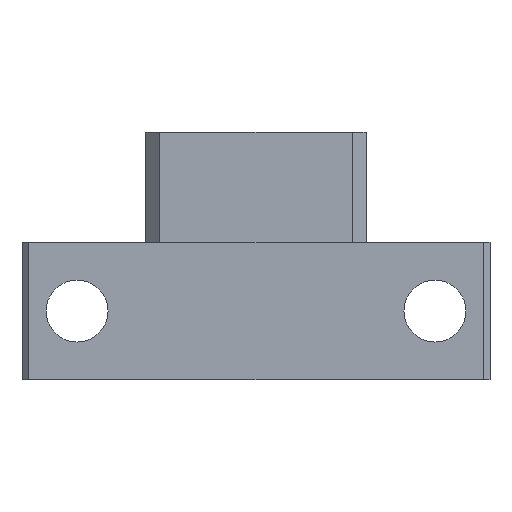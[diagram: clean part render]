
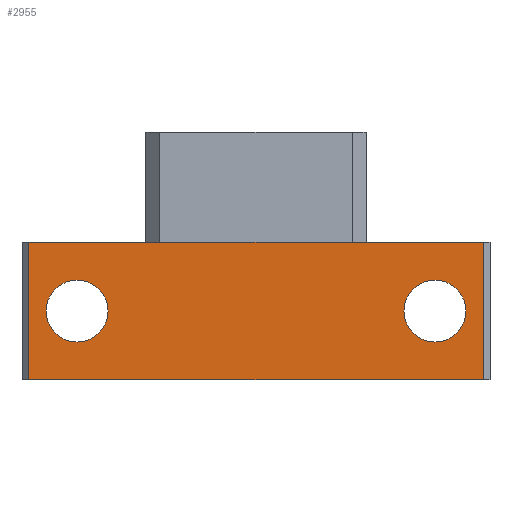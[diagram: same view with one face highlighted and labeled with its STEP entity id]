
A CAD part, front view. The second image highlights one B-rep face of the part: STEP entity #2955.
In plain terms, the highlighted planar face has unit normal (0, -1, 0).
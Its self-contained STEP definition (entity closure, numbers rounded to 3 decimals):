
#59 = VERTEX_POINT ( 'NONE', #159 ) ;
#107 = EDGE_LOOP ( 'NONE', ( #2882, #2864 ) ) ;
#159 = CARTESIAN_POINT ( 'NONE',  ( 13., -15.5, 2.75 ) ) ;
#194 = EDGE_CURVE ( 'NONE', #2325, #1596, #3060, .T. ) ;
#203 = EDGE_CURVE ( 'NONE', #351, #1956, #4145, .T. ) ;
#312 = EDGE_CURVE ( 'NONE', #1956, #351, #3546, .T. ) ;
#326 = CARTESIAN_POINT ( 'NONE',  ( 13., -15.5, 5. ) ) ;
#351 = VERTEX_POINT ( 'NONE', #4025 ) ;
#520 = EDGE_CURVE ( 'NONE', #3998, #59, #4492, .T. ) ;
#528 = DIRECTION ( 'NONE',  ( 0., 1., 0. ) ) ;
#577 = DIRECTION ( 'NONE',  ( 0., 1., 0. ) ) ;
#641 = EDGE_CURVE ( 'NONE', #2325, #4501, #4521, .T. ) ;
#676 = EDGE_LOOP ( 'NONE', ( #2108, #1475 ) ) ;
#719 = CARTESIAN_POINT ( 'NONE',  ( -13., -15.5, 2.75 ) ) ;
#727 = CARTESIAN_POINT ( 'NONE',  ( -16.5, -15.5, 10. ) ) ;
#729 = CARTESIAN_POINT ( 'NONE',  ( 16.5, -15.5, 10. ) ) ;
#1159 = PLANE ( 'NONE',  #2653 ) ;
#1250 = AXIS2_PLACEMENT_3D ( 'NONE', #4506, #2012, #3464 ) ;
#1254 = CARTESIAN_POINT ( 'NONE',  ( -16.5, -15.5, 10. ) ) ;
#1277 = DIRECTION ( 'NONE',  ( 0., 0., 1. ) ) ;
#1475 = ORIENTED_EDGE ( 'NONE', *, *, #3499, .T. ) ;
#1596 = VERTEX_POINT ( 'NONE', #1868 ) ;
#1698 = DIRECTION ( 'NONE',  ( 0., -1., 0. ) ) ;
#1865 = LINE ( 'NONE', #4409, #2305 ) ;
#1868 = CARTESIAN_POINT ( 'NONE',  ( 16.5, -15.5, 10. ) ) ;
#1893 = ORIENTED_EDGE ( 'NONE', *, *, #3656, .T. ) ;
#1941 = VECTOR ( 'NONE', #4481, 1000. ) ;
#1956 = VERTEX_POINT ( 'NONE', #719 ) ;
#2012 = DIRECTION ( 'NONE',  ( 0., -1., 0. ) ) ;
#2108 = ORIENTED_EDGE ( 'NONE', *, *, #520, .T. ) ;
#2288 = CARTESIAN_POINT ( 'NONE',  ( 13., -15.5, 5. ) ) ;
#2305 = VECTOR ( 'NONE', #2645, 1000. ) ;
#2325 = VERTEX_POINT ( 'NONE', #727 ) ;
#2509 = VECTOR ( 'NONE', #3689, 1000. ) ;
#2529 = DIRECTION ( 'NONE',  ( 0., 1., 0. ) ) ;
#2643 = VERTEX_POINT ( 'NONE', #3183 ) ;
#2645 = DIRECTION ( 'NONE',  ( 1., 0., 0. ) ) ;
#2653 = AXIS2_PLACEMENT_3D ( 'NONE', #3765, #528, #3810 ) ;
#2864 = ORIENTED_EDGE ( 'NONE', *, *, #312, .F. ) ;
#2882 = ORIENTED_EDGE ( 'NONE', *, *, #203, .F. ) ;
#2925 = AXIS2_PLACEMENT_3D ( 'NONE', #3514, #1698, #4645 ) ;
#2950 = ORIENTED_EDGE ( 'NONE', *, *, #4343, .F. ) ;
#2955 = ADVANCED_FACE ( 'NONE', ( #3786, #3355, #4139 ), #1159, .F. ) ;
#3060 = LINE ( 'NONE', #3751, #1941 ) ;
#3183 = CARTESIAN_POINT ( 'NONE',  ( 16.5, -15.5, 0. ) ) ;
#3226 = ORIENTED_EDGE ( 'NONE', *, *, #194, .F. ) ;
#3251 = DIRECTION ( 'NONE',  ( 0., 0., 1. ) ) ;
#3281 = LINE ( 'NONE', #729, #2509 ) ;
#3295 = AXIS2_PLACEMENT_3D ( 'NONE', #326, #2529, #3251 ) ;
#3355 = FACE_BOUND ( 'NONE', #676, .T. ) ;
#3425 = CARTESIAN_POINT ( 'NONE',  ( -16.5, -15.5, 0. ) ) ;
#3464 = DIRECTION ( 'NONE',  ( 0., 0., 1. ) ) ;
#3499 = EDGE_CURVE ( 'NONE', #59, #3998, #3527, .T. ) ;
#3509 = EDGE_LOOP ( 'NONE', ( #1893, #2950, #3226, #4244 ) ) ;
#3514 = CARTESIAN_POINT ( 'NONE',  ( -13., -15.5, 5. ) ) ;
#3527 = CIRCLE ( 'NONE', #3295, 2.25 ) ;
#3546 = CIRCLE ( 'NONE', #2925, 2.25 ) ;
#3656 = EDGE_CURVE ( 'NONE', #4501, #2643, #1865, .T. ) ;
#3689 = DIRECTION ( 'NONE',  ( 0., 0., -1. ) ) ;
#3751 = CARTESIAN_POINT ( 'NONE',  ( 0., -15.5, 10. ) ) ;
#3765 = CARTESIAN_POINT ( 'NONE',  ( 0., -15.5, 10. ) ) ;
#3786 = FACE_BOUND ( 'NONE', #107, .T. ) ;
#3810 = DIRECTION ( 'NONE',  ( 0., 0., 1. ) ) ;
#3998 = VERTEX_POINT ( 'NONE', #4452 ) ;
#4025 = CARTESIAN_POINT ( 'NONE',  ( -13., -15.5, 7.25 ) ) ;
#4044 = VECTOR ( 'NONE', #4162, 1000. ) ;
#4139 = FACE_OUTER_BOUND ( 'NONE', #3509, .T. ) ;
#4145 = CIRCLE ( 'NONE', #1250, 2.25 ) ;
#4162 = DIRECTION ( 'NONE',  ( 0., 0., -1. ) ) ;
#4244 = ORIENTED_EDGE ( 'NONE', *, *, #641, .T. ) ;
#4343 = EDGE_CURVE ( 'NONE', #1596, #2643, #3281, .T. ) ;
#4409 = CARTESIAN_POINT ( 'NONE',  ( 0., -15.5, 0. ) ) ;
#4452 = CARTESIAN_POINT ( 'NONE',  ( 13., -15.5, 7.25 ) ) ;
#4481 = DIRECTION ( 'NONE',  ( 1., 0., 0. ) ) ;
#4492 = CIRCLE ( 'NONE', #4647, 2.25 ) ;
#4501 = VERTEX_POINT ( 'NONE', #3425 ) ;
#4506 = CARTESIAN_POINT ( 'NONE',  ( -13., -15.5, 5. ) ) ;
#4521 = LINE ( 'NONE', #1254, #4044 ) ;
#4645 = DIRECTION ( 'NONE',  ( 0., 0., 1. ) ) ;
#4647 = AXIS2_PLACEMENT_3D ( 'NONE', #2288, #577, #1277 ) ;
